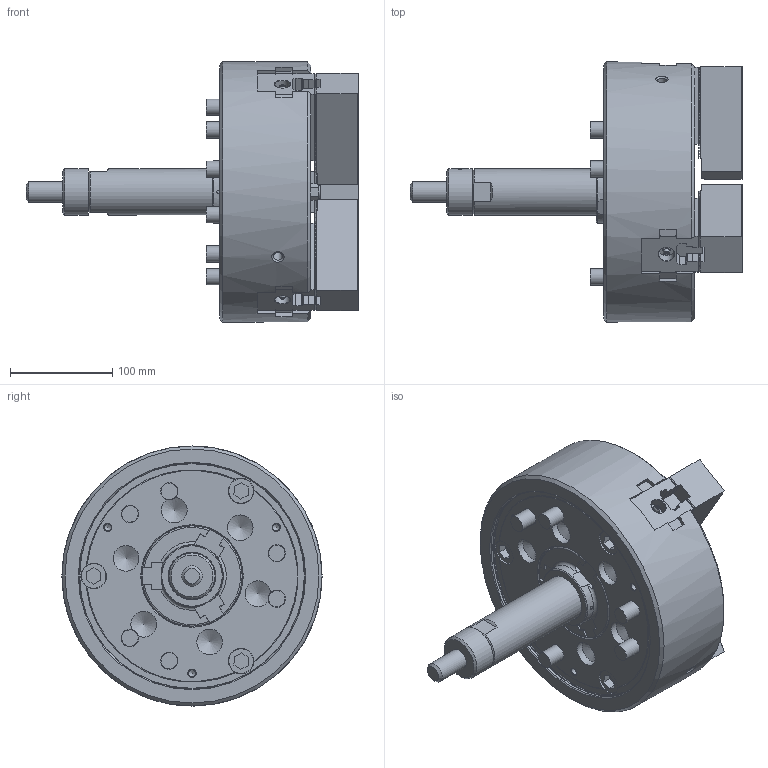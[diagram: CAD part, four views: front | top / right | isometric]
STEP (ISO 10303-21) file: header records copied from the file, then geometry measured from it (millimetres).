
FILE_DESCRIPTION (( 'STEP AP214' ), '1' );
FILE_NAME ('N-10_OC.STEP', '2020-03-08T23:33:11', ( '' ), ( '' ), 'SwSTEP 2.0', 'SolidWorks 2017', '' );
FILE_SCHEMA (( 'AUTOMOTIVE_DESIGN' ));
Length unit declared in the file: millimetre
Products named in the file (18): 俛傾僫僣僉 M12x3512x35; N-10_OC; P316335 ソフトジョー_W_‡_[; Part1^61P266460_2 僋儈僞僥_^_e_棉太倌I佱UA; 61P4008525 T僫僢僩b_g; 俛傾僫僣僉 M12x3512x35_B迸路 M12X3512X35; P316335 ソフトジョー_W_‡_[_ﾃﾞﾌｫﾙﾄ_ATI≪UA; 61P4008525 T僫僢僩b_g_棉太倌佱UA; Part1^61P266460_2 クミタテ_^_e
Assembly tree (13 placements, depth 2):
  俛傾僫僣僉 M12x3512x35
  N-10_OC
    P316335 ソフトジョー_W_‡_[_ﾃﾞﾌｫﾙﾄ_ATI≪UA  x3
    61P4008525 T僫僢僩b_g_棉太倌佱UA  x3
    俛傾僫僣僉 M12x3512x35_B迸路 M12X3512X35  x6
    Part1^61P266460_2 僋儈僞僥_^_e_棉太倌I佱UA
  P316335 ソフトジョー_W_‡_[
  P316335 ソフトジョー_W_‡_[
  61P4008525 T僫僢僩b_g
Bounding box: 324.2 x 254 x 254 mm (x, y, z)
Volume: 4827033.1 mm3; surface area: 456875.6 mm2
Topology: 13 solids, 13 shells, 3028 faces, 8719 edges, 5782 vertices
Faces by surface type: plane 2684, cylinder 208, cone 108, torus 22, sphere 6
Full cylindrical faces by diameter (mm): 1.9 x3, 6.8 x3, 8.5 x3, 8.8 x2, 9.5 x3, 10.2 x6, 12 x12, 13 x6, 15 x3, 16 x6, 17 x6, 18 x6, 19 x6, 20 x1, 24 x9, 25 x6, 26 x6, 27 x1, 34 x2, 38 x1, 45 x2, 98 x1, 220 x1, 221 x1, 254 x1
Entity records: 69197 total; most frequent: CARTESIAN_POINT 13409, ORIENTED_EDGE 11950, DIRECTION 10663, EDGE_CURVE 5975, VECTOR 5123, LINE 5123, VERTEX_POINT 4013, AXIS2_PLACEMENT_3D 2770
